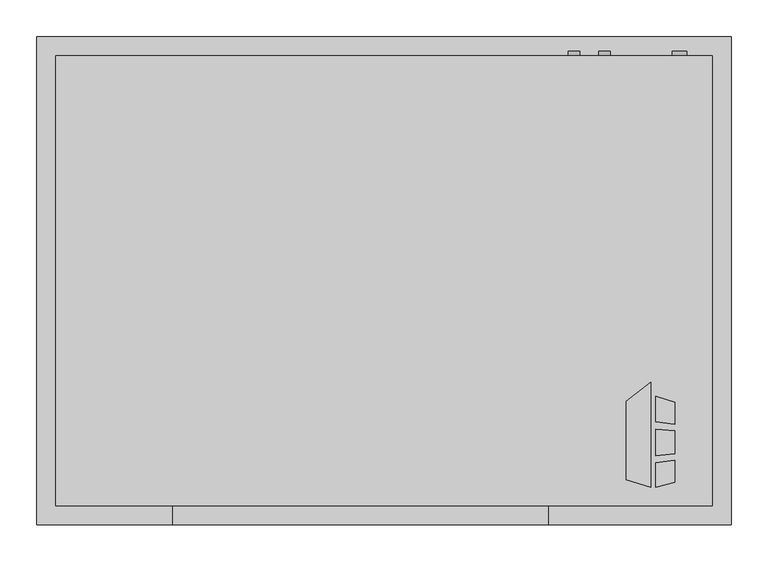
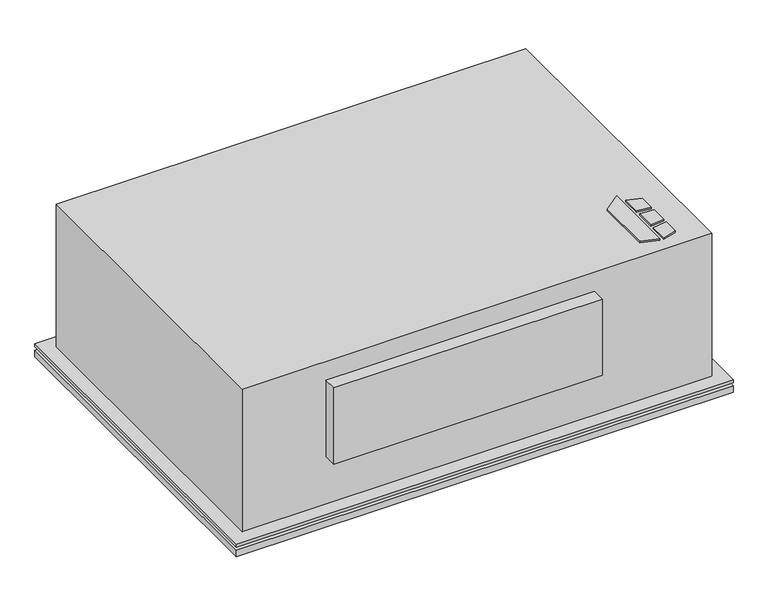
"""IFC4 building model written with IfcOpenShell, lengths in millimetres: proxy geometry, Horizontal_Telescoping_Fan_Coil_Unit_-_CBY_-_IEC_-_2-Pipe_Cool-EHeat_RH_2022 : Size 03 - 277v/60Hz/1Ph - 4 Row 3.0kW."""

from ifc_helpers import new_model, si_unit, point, frame, frame_2d, origin, origin_with_axes, place, context, project, spatial, polyline, circle_curve, trimmed, segment, composite_curve, outline, extrude, source, transform, mapped, element, save


def mechanical_equipment_86200f0f(model_context):
    return source(origin(), model_context, "Body", "SweptSolid", [
        extrude(outline(polyline([(480.7019761, -401.0078476), (513.2602728, -375.5705184), (513.2602728, -517.525), (480.7019761, -507.3054201), (480.7019761, -401.0078476)])), origin_with_axes(), (0.0, 0.0, 1.0), 3.175),
        extrude(outline(polyline([(520.0186058, -428.879852), (520.0186058, -394.3999379), (546.1, -402.5865115), (546.1, -432.0822446), (520.0186058, -428.879852)])), origin_with_axes(), (0.0, 0.0, 1.0), 3.175),
        extrude(outline(polyline([(546.1, -510.5365115), (520.0186058, -517.525), (520.0186058, -484.3036996), (546.1, -480.7618564), (546.1, -510.5365115)])), origin_with_axes(), (0.0, 0.0, 1.0), 3.175),
        extrude(outline(polyline([(546.1, -441.1638277), (546.1, -472.413983), (520.0186058, -475.155248), (520.0186058, -439.2975378), (546.1, -441.1638277)])), origin_with_axes(), (0.0, 0.0, 1.0), 3.175),
        extrude(outline(composite_curve([segment(trimmed(circle_curve(frame_2d((-95.25, 450.85)), 7.9375), [point((-95.25, 458.7875))], [point((-95.25, 442.9125))], False, "CARTESIAN"), True, "CONTINUOUS"), segment(trimmed(circle_curve(frame_2d((-95.25, 450.85)), 7.9375), [point((-95.25, 442.9125))], [point((-95.25, 458.7875))], False, "CARTESIAN"), True, "CONTINUOUS")], self_intersect=False)), frame((0.0, 66.675, 0.0), z_axis=(0.0, 1.0, 0.0), x_axis=(0.0, 0.0, 1.0)), (0.0, 0.0, 1.0), 6.35),
        extrude(outline(composite_curve([segment(trimmed(circle_curve(frame_2d((-60.325, 409.575)), 7.9375), [point((-60.325, 417.5125))], [point((-60.325, 401.6375))], False, "CARTESIAN"), True, "CONTINUOUS"), segment(trimmed(circle_curve(frame_2d((-60.325, 409.575)), 7.9375), [point((-60.325, 401.6375))], [point((-60.325, 417.5125))], False, "CARTESIAN"), True, "CONTINUOUS")], self_intersect=False)), frame((0.0, 66.675, 0.0), z_axis=(0.0, 1.0, 0.0), x_axis=(0.0, 0.0, 1.0)), (0.0, 0.0, 1.0), 6.35),
        extrude(outline(composite_curve([segment(trimmed(circle_curve(frame_2d((-260.35, 552.45)), 9.525), [point((-260.35, 561.975))], [point((-260.35, 542.925))], False, "CARTESIAN"), True, "CONTINUOUS"), segment(trimmed(circle_curve(frame_2d((-260.35, 552.45)), 9.525), [point((-260.35, 542.925))], [point((-260.35, 561.975))], False, "CARTESIAN"), True, "CONTINUOUS")], self_intersect=False)), frame((0.0, 66.675, 0.0), z_axis=(0.0, 1.0, 0.0), x_axis=(0.0, 0.0, 1.0)), (0.0, 0.0, 1.0), 6.35),
        extrude(outline(polyline([(622.3, 92.075), (622.3, -568.325), (-317.5, -568.325), (-317.5, 92.075), (622.3, 92.075)])), frame((0.0, 0.0, -311.15), z_axis=(0.0, 0.0, 1.0), x_axis=(1.0, 0.0, 0.0)), (0.0, 0.0, 1.0), 12.7),
        extrude(outline(polyline([(622.3, 92.075), (622.3, -568.325), (-317.5, -568.325), (-317.5, 92.075), (622.3, 92.075)])), frame((0.0, 0.0, -292.1), z_axis=(0.0, 0.0, 1.0), x_axis=(1.0, 0.0, 0.0)), (0.0, 0.0, 1.0), 6.35),
        extrude(outline(polyline([(596.9, 66.675), (596.9, -542.925), (-292.1, -542.925), (-292.1, 66.675), (596.9, 66.675)])), frame((0.0, 0.0, -298.45), z_axis=(0.0, 0.0, 1.0), x_axis=(1.0, 0.0, 0.0)), (0.0, 0.0, 1.0), 6.35),
        extrude(outline(polyline([(374.65, -568.325), (-133.35, -568.325), (-133.35, -542.925), (374.65, -542.925), (374.65, -568.325)])), frame((0.0, 0.0, -190.5), z_axis=(0.0, 0.0, 1.0), x_axis=(1.0, 0.0, 0.0)), (0.0, 0.0, 1.0), 152.4),
        extrude(outline(polyline([(-292.1, 66.675), (596.9, 66.675), (596.9, -542.925), (-292.1, -542.925), (-292.1, 66.675)])), frame((0.0, 0.0, -285.75), z_axis=(0.0, 0.0, 1.0), x_axis=(1.0, 0.0, 0.0)), (0.0, 0.0, 1.0), 285.75),
        extrude(outline(polyline([(508.0, -9.525), (508.0, -263.525), (-203.2, -263.525), (-203.2, -9.525), (508.0, -9.525)])), frame((0.0, 0.0, -317.5), z_axis=(0.0, 0.0, 1.0), x_axis=(1.0, 0.0, 0.0)), (0.0, 0.0, 1.0), 6.35),
    ])


if __name__ == "__main__":
    model = new_model("IFC4")
    model_context = context("Model", 3, world=origin())
    ifc_project = project(units=[si_unit("LENGTHUNIT", "METRE", prefix="MILLI")], contexts=[model_context])
    site = spatial("IfcSite", under=ifc_project)
    building = spatial("IfcBuilding", under=site)
    placement = place(None, origin())
    mechanical_equipment_shape = mechanical_equipment_86200f0f(model_context)
    element("IfcBuildingElementProxy", 1, Name="Horizontal_Telescoping_Fan_Coil_Unit_-_CBY_-_IEC_-_2-Pipe_Cool-EHeat_RH_2022 : Size 03 - 277v/60Hz/1Ph - 4 Row 3.0kW", ObjectType="Horizontal_Telescoping_Fan_Coil_Unit_-_CBY_-_IEC_-_2-Pipe_Cool-EHeat_RH_2022 : Size 03 - 277v/60Hz/1Ph - 4 Row 3.0kW", at=placement, inside=building, context=model_context, shape_type="MappedRepresentation", body=[
        mapped(mechanical_equipment_shape, transform((0.0, 0.0, 0.0), x_axis=(1.0, 0.0, 0.0), y_axis=(0.0, 1.0, 0.0), z_axis=(0.0, 0.0, 1.0))),
    ])
    save(model, "model.ifc")
